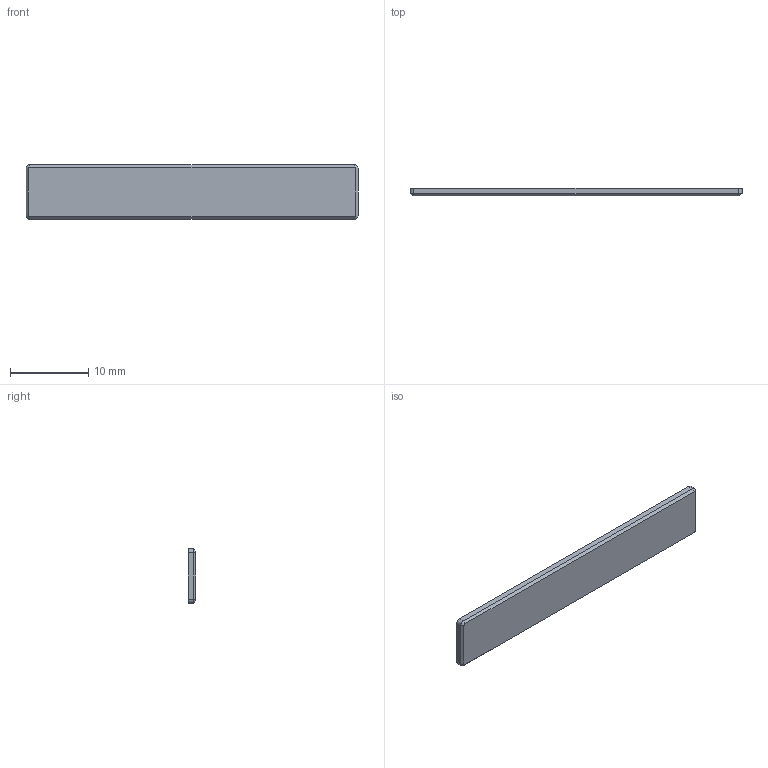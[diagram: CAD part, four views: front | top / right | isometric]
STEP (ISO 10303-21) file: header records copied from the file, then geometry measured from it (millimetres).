
FILE_DESCRIPTION(/* description */ (''),/* implementation_level */ '2;1');
FILE_NAME(/* name */ 'camera_tag.step',/* time_stamp */ '2026-07-06T13:24:38-05:00',/* author */ (''),/* organization */ (''),/* preprocessor_version */ 'ST-DEVELOPER v20.1',/* originating_system */ 'Autodesk Translation Framework v15.8.0.0',/* authorisation */ '');
FILE_SCHEMA (('AUTOMOTIVE_DESIGN { 1 0 10303 214 3 1 1 }'));
Length unit declared in the file: millimetre
Products named in the file (1): SaturnixLite_Hull
Bounding box: 42.5 x 1 x 7 mm (x, y, z)
Volume: 292.9 mm3; surface area: 675.3 mm2
Topology: 1 solids, 1 shells, 18 faces, 40 edges, 24 vertices
Faces by surface type: plane 10, cone 4, cylinder 4
Entity records: 532 total; most frequent: DIRECTION 90, CARTESIAN_POINT 83, ORIENTED_EDGE 80, EDGE_CURVE 40, AXIS2_PLACEMENT_3D 31, LINE 28, VECTOR 28, VERTEX_POINT 24
